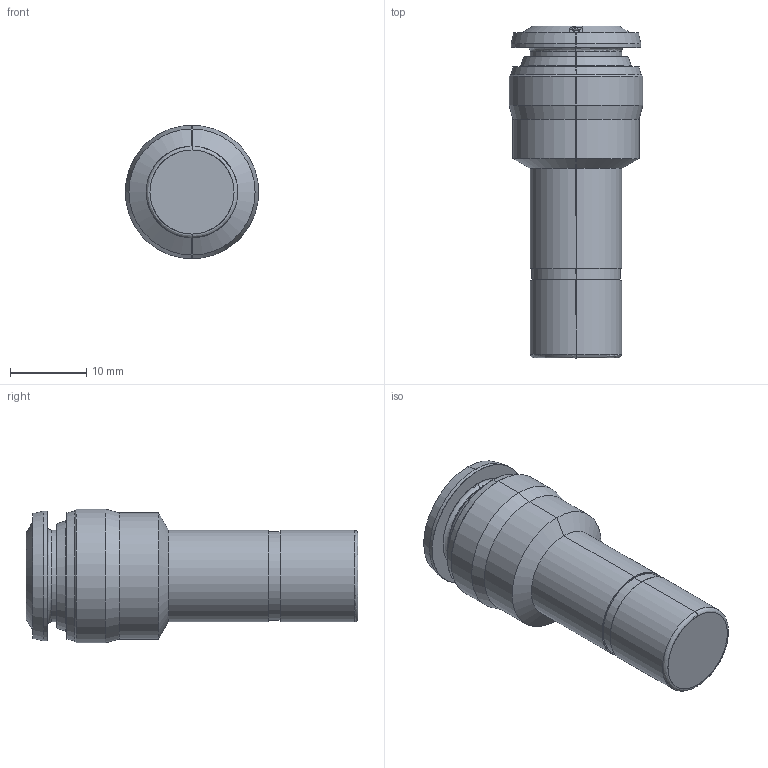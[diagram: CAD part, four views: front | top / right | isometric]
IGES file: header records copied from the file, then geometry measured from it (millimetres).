
Start section: SolidWorks IGES file using analytic representation for surfaces
Global section: file name: K:\Disegni Esecutivi\SERIE 50000\ASSIEMI_50000\50700\ASSIEMI_.IGES_50700\5070000010A.IGS; native system: SolidWorks 2011; preprocessor: SolidWorks 2011; author: cad05; date: 110621.081858; units: millimetre
Bounding box: 17.5 x 43.45 x 17.5 mm (x, y, z)
Surface area: 2452.2 mm2 (no closed solid volume)
Topology: 0 solids, 0 shells, 69 faces, 746 edges, 746 vertices
Faces by surface type: revolution 37, bspline 32
